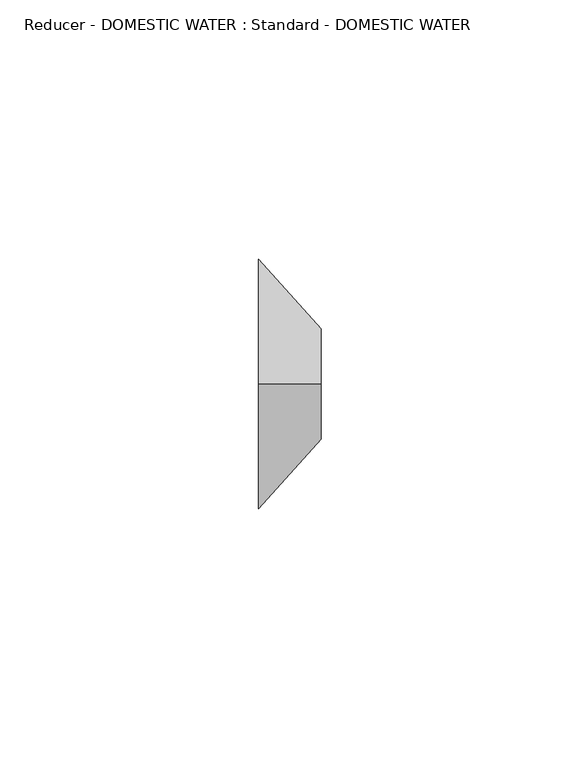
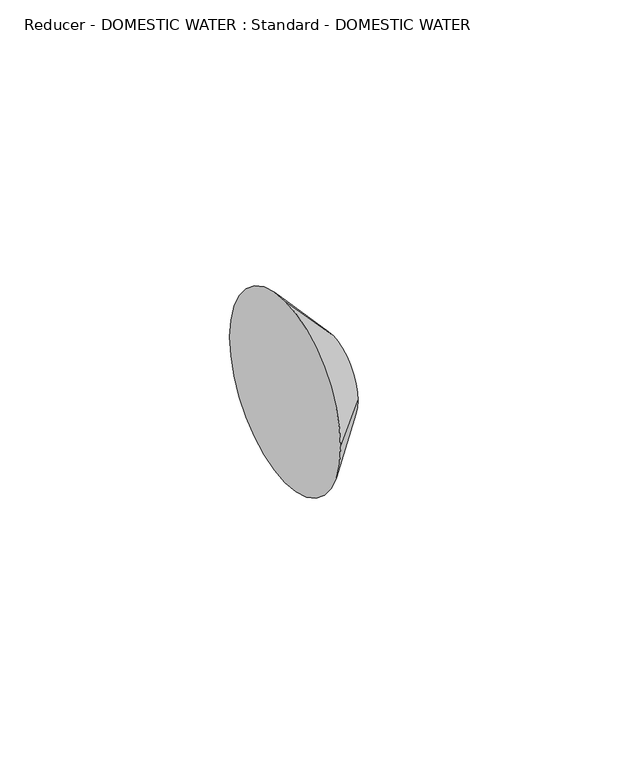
"""IFC4 building model written with IfcOpenShell, lengths in millimetres: pipe fitting geometry, Reducer - DOMESTIC WATER : Standard - DOMESTIC WATER."""

from ifc_helpers import new_model, si_unit, frame, origin, place, context, project, spatial, polyline, circle_curve, source, transform, mapped, element, save
from ifc_brep_helpers import plane_surface, revolved_surface, advanced_brep


def reducer_domestic_water_standard_domestic_water_b12194cf(model_context):
    return source(origin(), model_context, "Body", "AdvancedBrep", [
        advanced_brep(
        [(12.065, 0.0, 10.668), (12.065, -10.668, 0.0), (12.065, 0.0, -10.668), (12.065, 10.668, 0.0), (0.0, 0.0, 24.13), (0.0, 24.13, 0.0), (0.0, 0.0, -24.13), (0.0, -24.13, 0.0)],
        [
            (0, 1, circle_curve(frame((12.065, 0.0, 0.0), z_axis=(1.0, 0.0, 0.0), x_axis=(0.0, -1.0, 0.0)), 10.668)),
            (1, 2, circle_curve(frame((12.065, 0.0, 0.0), z_axis=(1.0, 0.0, 0.0), x_axis=(0.0, 0.0, -1.0)), 10.668)),
            (2, 3, circle_curve(frame((12.065, 0.0, 0.0), z_axis=(1.0, 0.0, 0.0), x_axis=(0.0, 1.0, 0.0)), 10.668)),
            (3, 0, circle_curve(frame((12.065, 0.0, 0.0), z_axis=(1.0, 0.0, 0.0), x_axis=(0.0, 0.0, 1.0)), 10.668)),
            (4, 5, circle_curve(frame((0.0, 0.0, 0.0), z_axis=(-1.0, 0.0, 0.0), x_axis=(0.0, 0.0, 1.0)), 24.13)),
            (5, 6, circle_curve(frame((0.0, 0.0, 0.0), z_axis=(-1.0, 0.0, 0.0), x_axis=(0.0, 1.0, 0.0)), 24.13)),
            (6, 7, circle_curve(frame((0.0, 0.0, 0.0), z_axis=(-1.0, 0.0, 0.0), x_axis=(0.0, 0.0, -1.0)), 24.13)),
            (7, 4, circle_curve(frame((0.0, 0.0, 0.0), z_axis=(-1.0, 0.0, 0.0), x_axis=(0.0, -1.0, 0.0)), 24.13)),
            (4, 0),
            (3, 5),
            (2, 6),
            (1, 7),
        ],
        [
            plane_surface(frame((12.065, 0.0, 0.0), z_axis=(1.0, 0.0, 0.0), x_axis=(0.0, 1.0, 0.0))),
            plane_surface(frame((0.0, 0.0, 0.0), z_axis=(-1.0, 0.0, 0.0), x_axis=(0.0, 1.0, 0.0))),
            revolved_surface(polyline([(12.065, 0.0, 10.66800000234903), (0.0, 0.0, 24.13)]), (21.6259434, 0.0, 0.0), (-1.0, 0.0, 0.0)),
            revolved_surface(polyline([(12.065, 10.66800000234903, 0.0), (0.0, 24.13, 0.0)]), (21.6259434, 0.0, 0.0), (-1.0, 0.0, 0.0)),
            revolved_surface(polyline([(12.065, 0.0, -10.66800000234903), (0.0, 0.0, -24.13)]), (21.6259434, 0.0, 0.0), (-1.0, 0.0, 0.0)),
            revolved_surface(polyline([(12.065, -10.66800000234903, 0.0), (0.0, -24.13, 0.0)]), (21.6259434, 0.0, 0.0), (-1.0, 0.0, 0.0)),
        ],
        [
            (0, [[1, 2, 3, 4]]),
            (1, [[5, 6, 7, 8]]),
            (2, [[9, -4, 10, -5]]),
            (3, [[-10, -3, 11, -6]]),
            (4, [[-11, -2, 12, -7]]),
            (5, [[-12, -1, -9, -8]]),
        ],
    ),
        advanced_brep(
        [(12.065, 0.0, 10.668), (12.065, -10.668, 0.0), (12.065, 0.0, -10.668), (12.065, 10.668, 0.0), (0.0, 0.0, 24.13), (0.0, 24.13, 0.0), (0.0, 0.0, -24.13), (0.0, -24.13, 0.0)],
        [
            (0, 1, circle_curve(frame((12.065, 0.0, 0.0), z_axis=(1.0, 0.0, 0.0), x_axis=(0.0, -1.0, 0.0)), 10.668)),
            (1, 2, circle_curve(frame((12.065, 0.0, 0.0), z_axis=(1.0, 0.0, -1.039076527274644e-12), x_axis=(-1.0391244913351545e-12, 0.0, -1.0)), 10.668)),
            (2, 3, circle_curve(frame((12.065, 0.0, 0.0), z_axis=(1.0, 0.0, 0.0), x_axis=(0.0, 1.0, 0.0)), 10.668)),
            (3, 0, circle_curve(frame((12.065, 0.0, 0.0), z_axis=(1.0, 0.0, 0.0), x_axis=(0.0, 0.0, 1.0)), 10.668)),
            (4, 5, circle_curve(frame((0.0, 0.0, 0.0), z_axis=(-1.0, 0.0, 0.0), x_axis=(0.0, 0.0, 1.0)), 24.13)),
            (5, 6, circle_curve(frame((0.0, 0.0, 0.0), z_axis=(-1.0, 0.0, 0.0), x_axis=(0.0, 1.0, 0.0)), 24.13)),
            (6, 7, circle_curve(frame((0.0, 0.0, 0.0), z_axis=(-1.0, 0.0, 1.039076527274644e-12), x_axis=(-1.0391244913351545e-12, 0.0, -1.0)), 24.13)),
            (7, 4, circle_curve(frame((0.0, 0.0, 0.0), z_axis=(-1.0, 0.0, 0.0), x_axis=(0.0, -1.0, 0.0)), 24.13)),
            (4, 0),
            (3, 5),
            (2, 6),
            (1, 7),
        ],
        [
            plane_surface(frame((12.065, 0.0, 0.0), z_axis=(1.0, 0.0, 0.0), x_axis=(0.0, 1.0, 0.0))),
            plane_surface(frame((0.0, 0.0, 0.0), z_axis=(-1.0, 0.0, 0.0), x_axis=(0.0, 1.0, 0.0))),
            revolved_surface(polyline([(12.065, 0.0, 10.66800000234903), (0.0, 0.0, 24.13)]), (21.6259434, 0.0, 0.0), (-1.0, 0.0, 0.0)),
            revolved_surface(polyline([(12.065, 10.66800000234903, 0.0), (0.0, 24.13, 0.0)]), (21.6259434, 0.0, 0.0), (-1.0, 0.0, 0.0)),
            revolved_surface(polyline([(12.065, 0.0, -10.66800000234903), (-2.5071500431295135e-11, 0.0, -24.130000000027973)]), (21.6259434, 0.0, 0.0), (-1.0, 0.0, 1.039076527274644e-12)),
            revolved_surface(polyline([(12.065, -10.66800000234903, 0.0), (0.0, -24.13, 0.0)]), (21.6259434, 0.0, 0.0), (-1.0, 0.0, 0.0)),
        ],
        [
            (0, [[1, 2, 3, 4]]),
            (1, [[5, 6, 7, 8]]),
            (2, [[9, -4, 10, -5]]),
            (3, [[-10, -3, 11, -6]]),
            (4, [[-11, -2, 12, -7]]),
            (5, [[-12, -1, -9, -8]]),
        ],
    ),
    ])


if __name__ == "__main__":
    model = new_model("IFC4")
    model_context = context("Model", 3, world=origin())
    ifc_project = project(units=[si_unit("LENGTHUNIT", "METRE", prefix="MILLI")], contexts=[model_context])
    site = spatial("IfcSite", under=ifc_project)
    building = spatial("IfcBuilding", under=site)
    placement = place(None, origin())
    reducer_domestic_water_standard_domestic_water_shape = reducer_domestic_water_standard_domestic_water_b12194cf(model_context)
    element("IfcPipeFitting", 1, ObjectType="Reducer - DOMESTIC WATER : Standard - DOMESTIC WATER", at=placement, inside=building, context=model_context, shape_type="MappedRepresentation", body=[
        mapped(reducer_domestic_water_standard_domestic_water_shape, transform((0.0, 0.0, 0.0), x_axis=(1.0, 0.0, 0.0), y_axis=(0.0, 1.0, 0.0), z_axis=(0.0, 0.0, 1.0))),
    ])
    save(model, "model.ifc")
